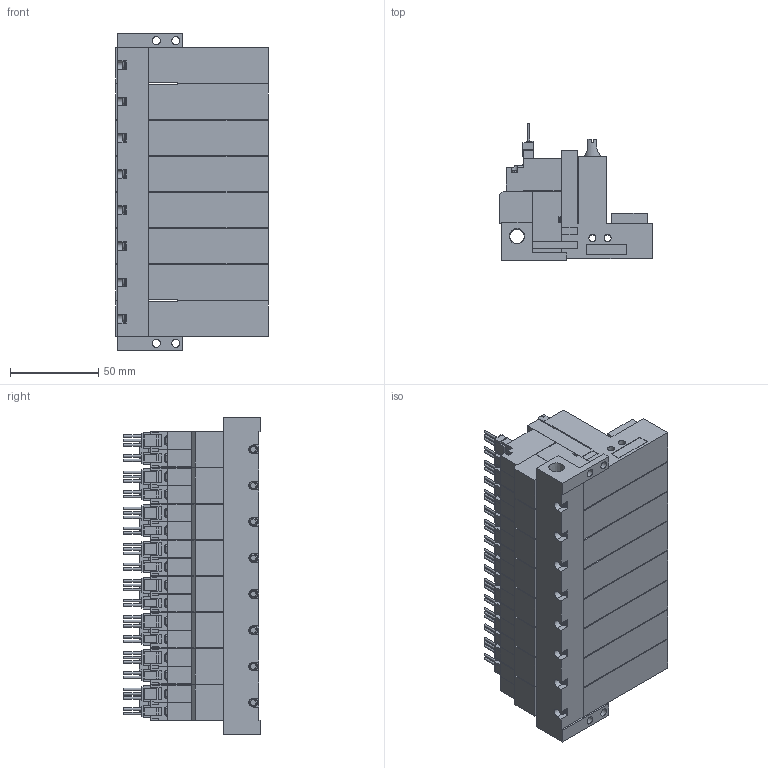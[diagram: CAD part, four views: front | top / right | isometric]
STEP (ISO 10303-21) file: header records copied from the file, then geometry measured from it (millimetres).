
FILE_DESCRIPTION(('STEP AP203'),'1');
FILE_NAME('ZL5WLR808.stp','2025-02-25T05:03:08',(' '),(' '),'Spatial InterOp 3D',' ',' ');
FILE_SCHEMA(('CONFIG_CONTROL_DESIGN'));
Length unit declared in the file: millimetre
Products named in the file (5): BMC22M※※※※ZL5WLR808; Solenoid valve W; Pressure sensor ZL; Unit L; Base MR80R
Assembly tree (25 placements, depth 2):
  BMC22M※※※※ZL5WLR808
    Solenoid valve W  x8
    Pressure sensor ZL  x8
    Unit L  x8
    Base MR80R
Bounding box: 86.6 x 77.45 x 179.5 mm (x, y, z)
Volume: 619094.6 mm3; surface area: 175677.5 mm2
Topology: 25 solids, 25 shells, 2637 faces, 7163 edges, 4728 vertices
Faces by surface type: plane 2270, cylinder 285, cone 58, torus 24
Full cylindrical faces by diameter (mm): 1.4 x40, 2.5 x8, 3 x32, 3.5 x32, 3.6 x8, 4 x16, 4.134 x8, 4.5 x4, 5.2 x8, 6 x8, 6.6 x8, 8.279 x1
Entity records: 14311 total; most frequent: CARTESIAN_POINT 2797, DIRECTION 2285, ORIENTED_EDGE 2170, EDGE_CURVE 1085, LINE 847, VECTOR 847, VERTEX_POINT 771, AXIS2_PLACEMENT_3D 719
